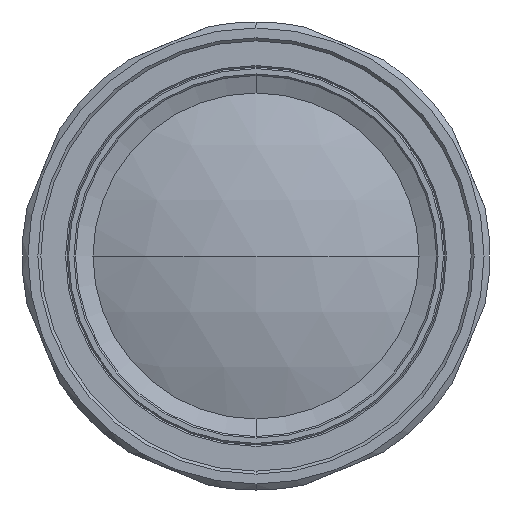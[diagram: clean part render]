
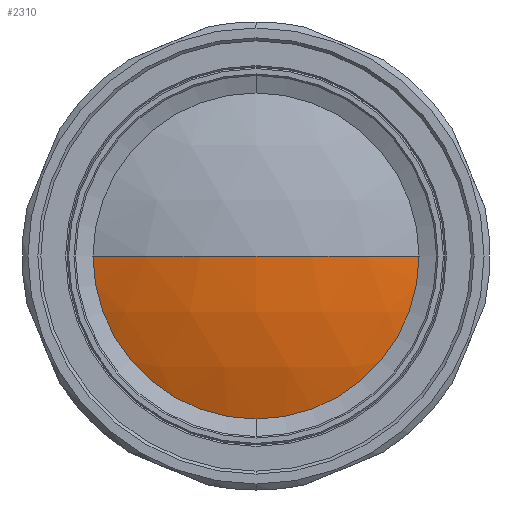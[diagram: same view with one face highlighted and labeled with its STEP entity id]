
A CAD part, left-side view. The second image highlights one B-rep face of the part: STEP entity #2310.
In plain terms, the highlighted spherical face has radius 57 mm.
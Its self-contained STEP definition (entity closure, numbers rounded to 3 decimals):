
#104 = CIRCLE ( 'NONE', #4325, 20.65 ) ;
#105 = EDGE_CURVE ( 'NONE', #3831, #4279, #1739, .T. ) ;
#134 = EDGE_CURVE ( 'NONE', #3985, #4279, #3717, .T. ) ;
#148 = DIRECTION ( 'NONE',  ( 0., 0., 1. ) ) ;
#175 = CARTESIAN_POINT ( 'NONE',  ( -18.07, 0., 0. ) ) ;
#377 = CIRCLE ( 'NONE', #4442, 20.65 ) ;
#589 = DIRECTION ( 'NONE',  ( 0., 0., 1. ) ) ;
#638 = CARTESIAN_POINT ( 'NONE',  ( -18.07, 0., 0. ) ) ;
#796 = DIRECTION ( 'NONE',  ( -1., 0., 0. ) ) ;
#1156 = CARTESIAN_POINT ( 'NONE',  ( -75.07, 0., 0. ) ) ;
#1467 = ORIENTED_EDGE ( 'NONE', *, *, #105, .T. ) ;
#1691 = AXIS2_PLACEMENT_3D ( 'NONE', #175, #148, #4127 ) ;
#1719 = DIRECTION ( 'NONE',  ( 0., 0., -1. ) ) ;
#1739 = CIRCLE ( 'NONE', #4129, 57. ) ;
#1822 = VERTEX_POINT ( 'NONE', #4041 ) ;
#1847 = DIRECTION ( 'NONE',  ( -1., 0., 0. ) ) ;
#1893 = EDGE_CURVE ( 'NONE', #3985, #1822, #104, .T. ) ;
#2214 = CARTESIAN_POINT ( 'NONE',  ( -71.198, -20.65, 0. ) ) ;
#2243 = CARTESIAN_POINT ( 'NONE',  ( -71.198, 0., 0. ) ) ;
#2310 = ADVANCED_FACE ( 'NONE', ( #4668 ), #2988, .T. ) ;
#2731 = CARTESIAN_POINT ( 'NONE',  ( -71.198, 20.65, 0. ) ) ;
#2988 = SPHERICAL_SURFACE ( 'NONE', #3799, 57. ) ;
#2994 = ORIENTED_EDGE ( 'NONE', *, *, #134, .F. ) ;
#3385 = DIRECTION ( 'NONE',  ( 0., 0., -1. ) ) ;
#3703 = DIRECTION ( 'NONE',  ( 0., 1., 0. ) ) ;
#3717 = CIRCLE ( 'NONE', #1691, 57. ) ;
#3783 = DIRECTION ( 'NONE',  ( 0., 1., 0. ) ) ;
#3799 = AXIS2_PLACEMENT_3D ( 'NONE', #638, #3385, #3783 ) ;
#3831 = VERTEX_POINT ( 'NONE', #2214 ) ;
#3946 = EDGE_CURVE ( 'NONE', #1822, #3831, #377, .T. ) ;
#3985 = VERTEX_POINT ( 'NONE', #2731 ) ;
#4033 = CARTESIAN_POINT ( 'NONE',  ( -18.07, 0., 0. ) ) ;
#4041 = CARTESIAN_POINT ( 'NONE',  ( -71.198, 0., -20.65 ) ) ;
#4127 = DIRECTION ( 'NONE',  ( 1., 0., 0. ) ) ;
#4129 = AXIS2_PLACEMENT_3D ( 'NONE', #4033, #1719, #3703 ) ;
#4279 = VERTEX_POINT ( 'NONE', #1156 ) ;
#4325 = AXIS2_PLACEMENT_3D ( 'NONE', #2243, #1847, #589 ) ;
#4429 = EDGE_LOOP ( 'NONE', ( #5092, #4852, #1467, #2994 ) ) ;
#4442 = AXIS2_PLACEMENT_3D ( 'NONE', #4650, #796, #5093 ) ;
#4650 = CARTESIAN_POINT ( 'NONE',  ( -71.198, 0., 0. ) ) ;
#4668 = FACE_OUTER_BOUND ( 'NONE', #4429, .T. ) ;
#4852 = ORIENTED_EDGE ( 'NONE', *, *, #3946, .T. ) ;
#5092 = ORIENTED_EDGE ( 'NONE', *, *, #1893, .T. ) ;
#5093 = DIRECTION ( 'NONE',  ( 0., 0., 1. ) ) ;
